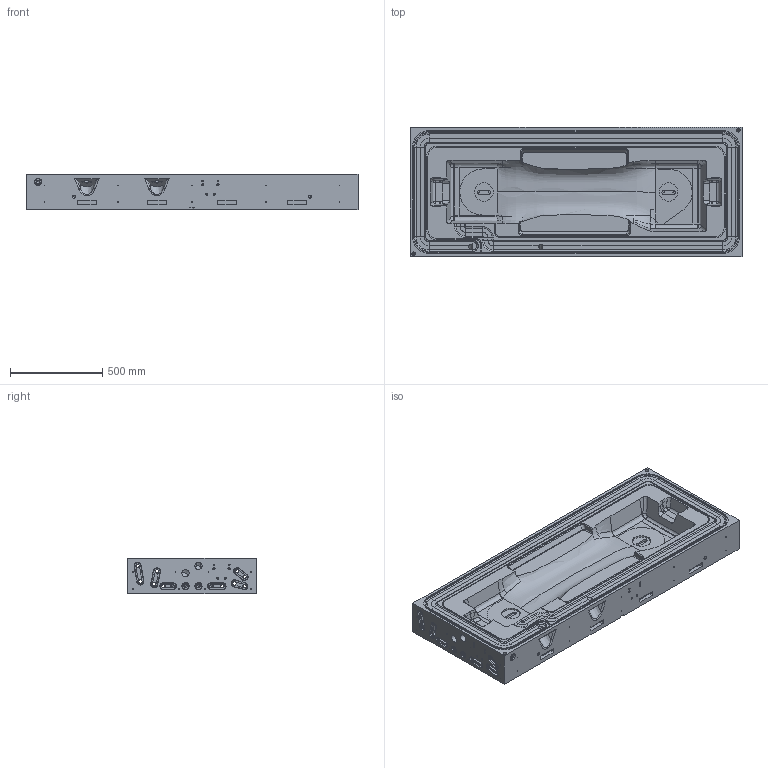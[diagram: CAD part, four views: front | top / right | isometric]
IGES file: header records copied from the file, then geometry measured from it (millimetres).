
Start section: START RECORD GO HERE.
Global section: file name: E-700-A-bloc_inferieur_UDB.igs; native system: IBM CATIA IGES - CATIA Version 5 Release 18 ; preprocessor: CATIA Version 5 Release 18 ; author: e-terrisse; organization: ORDIMOULE; date: 20110106.112952; units: millimetre
Bounding box: 1800 x 700 x 190 mm (x, y, z)
Surface area: 5796842.3 mm2 (no closed solid volume)
Topology: 0 solids, 1078 shells, 1078 faces, 5439 edges, 5259 vertices
Faces by surface type: revolution 695, plane 321, bspline 62
